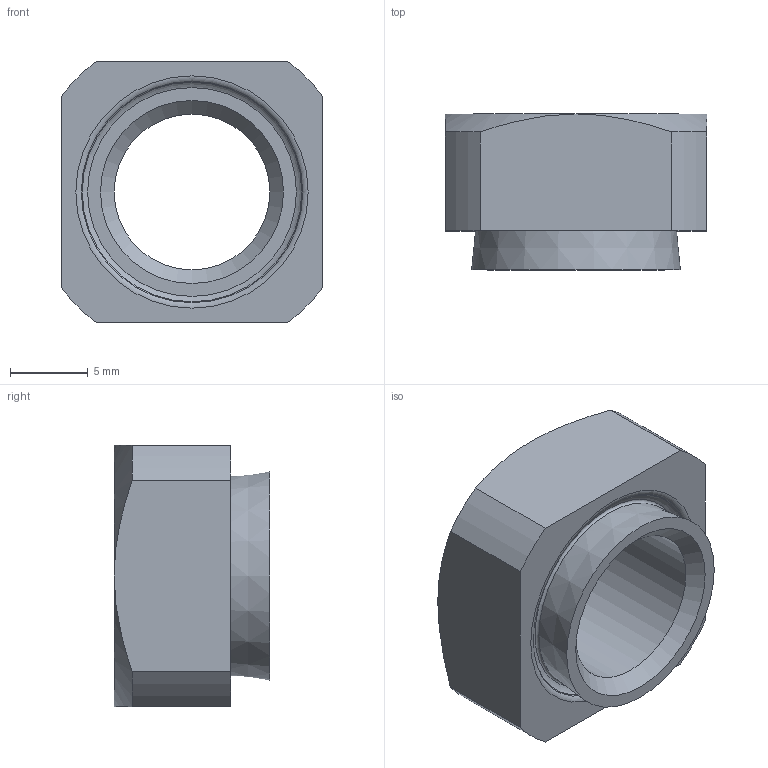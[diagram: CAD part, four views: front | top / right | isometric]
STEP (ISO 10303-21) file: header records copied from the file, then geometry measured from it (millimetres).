
FILE_DESCRIPTION(/* description */ (''),/* implementation_level */ '2;1');
FILE_NAME(/* name */ 'D:\Sukhmani\Fastit\HN Nut\HN 10-3.0.stp',/* time_stamp */ '2024-03-14T12:22:34+06:00',/* author */ ('edc.sukhmani'),/* organization */ (''),/* preprocessor_version */ 'ST-DEVELOPER v18.1',/* originating_system */ 'Autodesk Inventor 2022',/* authorisation */ '');
FILE_SCHEMA (('AUTOMOTIVE_DESIGN { 1 0 10303 214 3 1 1 }'));
Length unit declared in the file: millimetre
Products named in the file (1): HN 10-3.0
Bounding box: 16.8 x 10 x 16.8 mm (x, y, z)
Volume: 1532.6 mm3; surface area: 1250.3 mm2
Topology: 1 solids, 1 shells, 24 faces, 58 edges, 37 vertices
Faces by surface type: cone 8, plane 7, cylinder 6, torus 3
Full cylindrical faces by diameter (mm): 10 x1, 11.75 x1
Entity records: 753 total; most frequent: CARTESIAN_POINT 136, DIRECTION 132, ORIENTED_EDGE 116, EDGE_CURVE 58, AXIS2_PLACEMENT_3D 57, VERTEX_POINT 37, CIRCLE 32, EDGE_LOOP 27
